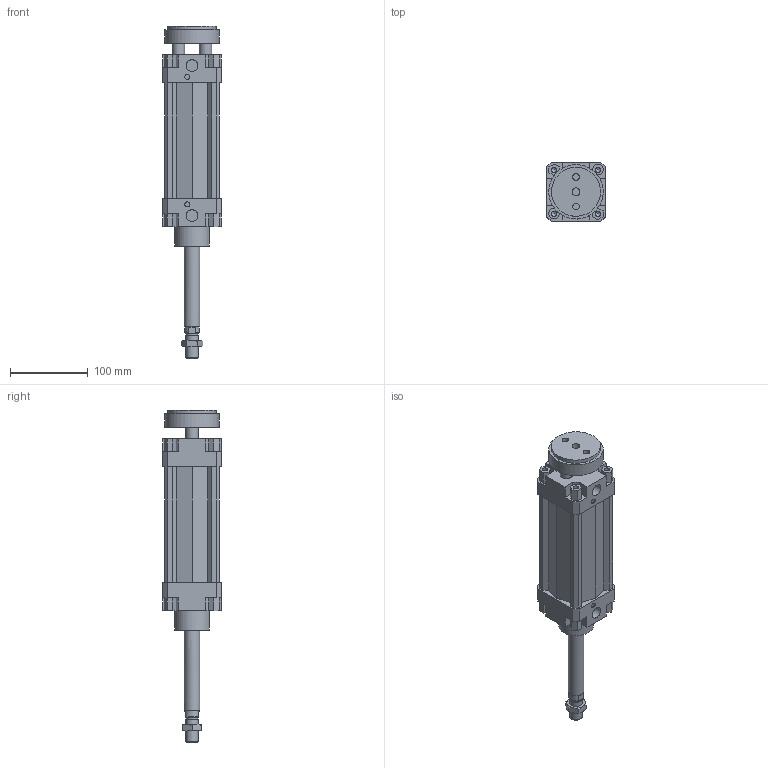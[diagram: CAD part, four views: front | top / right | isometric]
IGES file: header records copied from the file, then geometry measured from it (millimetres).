
Global section: file name: 132#_063_0100_02; native system: Autodesk Inventor 2014; preprocessor: unknown; author: A. Manieri; date: 20161006.155929; units: millimetre
Bounding box: 75 x 75 x 427 mm (x, y, z)
Volume: 908604.1 mm3; surface area: 192558.9 mm2
Topology: 3 solids, 3 shells, 220 faces, 589 edges, 397 vertices
Faces by surface type: bspline 220
